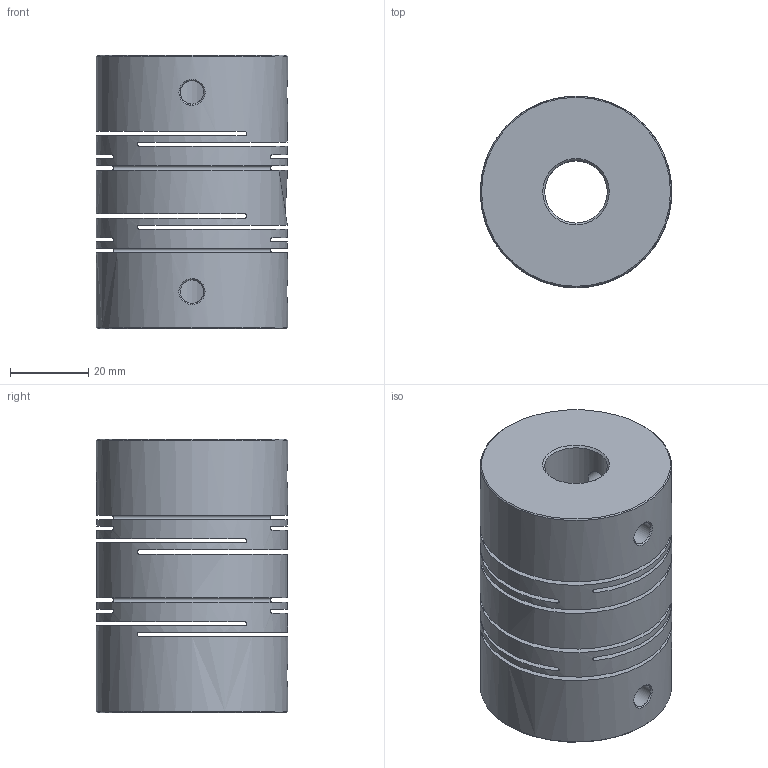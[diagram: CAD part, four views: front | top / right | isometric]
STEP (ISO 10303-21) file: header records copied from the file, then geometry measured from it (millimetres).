
FILE_DESCRIPTION( ( 'Unknown' ), '1' );
FILE_NAME( 'D:/3D/目敲傅/SRB Type/SRB-49.stp', 'Unknown', ( 'Unknown' ), ( 'Unknown' ), 'XStep 1.0', 'Unknown', ' ' );
FILE_SCHEMA( ( 'CONFIG_CONTROL_DESIGN' ) );
Length unit declared in the file: millimetre
Products named in the file (1): 1
Bounding box: 49 x 49 x 70 mm (x, y, z)
Volume: 103268.8 mm3; surface area: 39340.1 mm2
Topology: 1 solids, 1 shells, 48 faces, 130 edges, 86 vertices
Faces by surface type: cylinder 22, plane 18, bspline 4, cone 4
Full cylindrical faces by diameter (mm): 6 x4, 16 x2, 17 x7, 49 x1
Entity records: 2156 total; most frequent: CARTESIAN_POINT 1113, DIRECTION 186, ORIENTED_EDGE 168, EDGE_LOOP 104, AXIS2_PLACEMENT_3D 85, EDGE_CURVE 84, VERTEX_POINT 68, FACE_OUTER_BOUND 66
